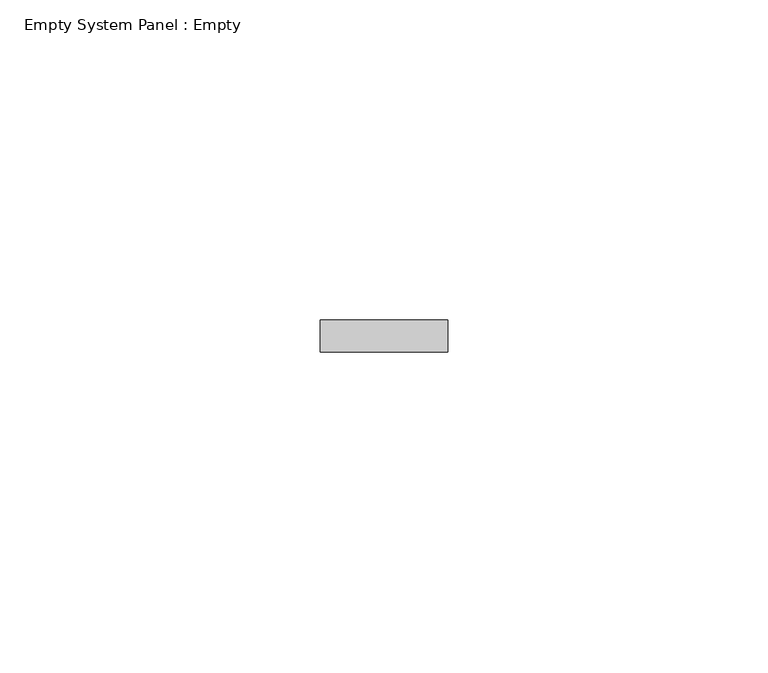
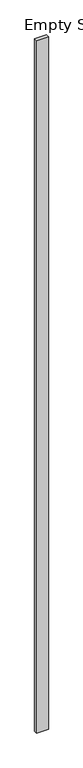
"""IFC4 building model written with IfcOpenShell, lengths in millimetres: plate geometry, Empty System Panel : Empty."""

from ifc_helpers import new_model, si_unit, origin, origin_with_axes, place, context, project, spatial, polyline, outline, extrude, source, transform, mapped, element, save


def empty_system_panel_empty_e4970c4e(model_context):
    return source(origin(), model_context, "Body", "SweptSolid", [
        extrude(outline(polyline([(9.9999998, 97.5), (-9.9999998, 97.5), (-9.9999998, 102.5), (9.9999998, 102.5), (9.9999998, 97.5)])), origin_with_axes(), (0.0, 0.0, 1.0), 1225.5020157),
    ])


if __name__ == "__main__":
    model = new_model("IFC4")
    model_context = context("Model", 3, world=origin())
    ifc_project = project(units=[si_unit("LENGTHUNIT", "METRE", prefix="MILLI")], contexts=[model_context])
    site = spatial("IfcSite", under=ifc_project)
    building = spatial("IfcBuilding", under=site)
    placement = place(None, origin())
    empty_system_panel_empty_shape = empty_system_panel_empty_e4970c4e(model_context)
    element("IfcPlate", 1, ObjectType="Empty System Panel : Empty", at=placement, inside=building, context=model_context, shape_type="MappedRepresentation", body=[
        mapped(empty_system_panel_empty_shape, transform((0.0, 0.0, 0.0), x_axis=(1.0, 0.0, 0.0), y_axis=(0.0, 1.0, 0.0), z_axis=(0.0, 0.0, 1.0))),
    ])
    save(model, "model.ifc")
